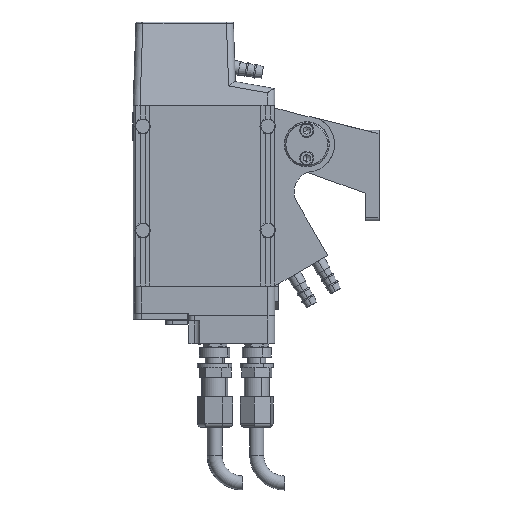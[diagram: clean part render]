
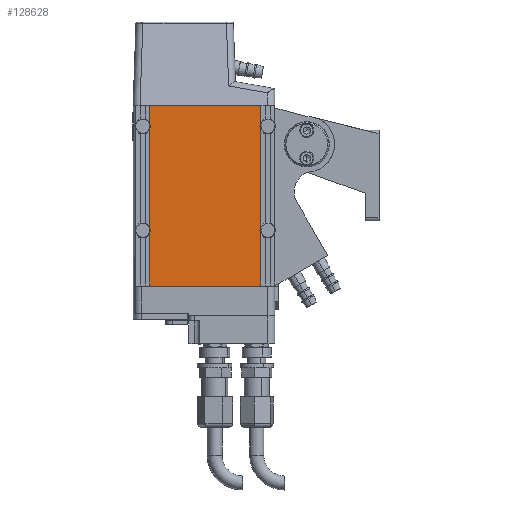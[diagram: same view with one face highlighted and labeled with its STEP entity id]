
A CAD part, left-side view. The second image highlights one B-rep face of the part: STEP entity #128628.
In plain terms, the highlighted planar face has unit normal (-1, 0, 0).
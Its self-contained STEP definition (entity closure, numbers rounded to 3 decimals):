
#10827 = DIRECTION ( 'NONE',  ( 0., 0., 1. ) ) ;
#13238 = CARTESIAN_POINT ( 'NONE',  ( -40.674, 50.645, 19.5 ) ) ;
#14720 = DIRECTION ( 'NONE',  ( 0., 1., 0. ) ) ;
#22426 = PLANE ( 'NONE',  #126108 ) ;
#23347 = CARTESIAN_POINT ( 'NONE',  ( -40.674, 50.645, 19.5 ) ) ;
#23866 = CARTESIAN_POINT ( 'NONE',  ( -40.674, -29.355, 19.5 ) ) ;
#26374 = CARTESIAN_POINT ( 'NONE',  ( -40.674, 60.645, 149.5 ) ) ;
#26651 = VERTEX_POINT ( 'NONE', #13238 ) ;
#38921 = VECTOR ( 'NONE', #14720, 1000. ) ;
#39089 = VECTOR ( 'NONE', #118759, 1000. ) ;
#43896 = EDGE_CURVE ( 'NONE', #26651, #61750, #49580, .T. ) ;
#49580 = LINE ( 'NONE', #134577, #142422 ) ;
#58542 = ORIENTED_EDGE ( 'NONE', *, *, #103814, .T. ) ;
#58843 = CARTESIAN_POINT ( 'NONE',  ( -40.674, -29.355, 149.5 ) ) ;
#61750 = VERTEX_POINT ( 'NONE', #23866 ) ;
#71268 = LINE ( 'NONE', #26374, #38921 ) ;
#77447 = VERTEX_POINT ( 'NONE', #91002 ) ;
#77730 = EDGE_LOOP ( 'NONE', ( #86457, #134987, #58542, #123099 ) ) ;
#83378 = DIRECTION ( 'NONE',  ( -1., 0., 0. ) ) ;
#86457 = ORIENTED_EDGE ( 'NONE', *, *, #43896, .T. ) ;
#91002 = CARTESIAN_POINT ( 'NONE',  ( -40.674, 50.645, 149.5 ) ) ;
#97135 = EDGE_CURVE ( 'NONE', #144014, #61750, #107356, .T. ) ;
#103814 = EDGE_CURVE ( 'NONE', #144014, #77447, #71268, .T. ) ;
#104496 = FACE_OUTER_BOUND ( 'NONE', #77730, .T. ) ;
#107356 = LINE ( 'NONE', #155348, #39089 ) ;
#107570 = DIRECTION ( 'NONE',  ( 0., 0., 1. ) ) ;
#111258 = DIRECTION ( 'NONE',  ( 0., -1., 0. ) ) ;
#112629 = EDGE_CURVE ( 'NONE', #26651, #77447, #125535, .T. ) ;
#118759 = DIRECTION ( 'NONE',  ( 0., 0., -1. ) ) ;
#121745 = VECTOR ( 'NONE', #107570, 1000. ) ;
#123099 = ORIENTED_EDGE ( 'NONE', *, *, #112629, .F. ) ;
#125535 = LINE ( 'NONE', #23347, #121745 ) ;
#126108 = AXIS2_PLACEMENT_3D ( 'NONE', #155938, #83378, #10827 ) ;
#128628 = ADVANCED_FACE ( 'NONE', ( #104496 ), #22426, .T. ) ;
#134577 = CARTESIAN_POINT ( 'NONE',  ( -40.674, 60.645, 19.5 ) ) ;
#134987 = ORIENTED_EDGE ( 'NONE', *, *, #97135, .F. ) ;
#142422 = VECTOR ( 'NONE', #111258, 1000. ) ;
#144014 = VERTEX_POINT ( 'NONE', #58843 ) ;
#155348 = CARTESIAN_POINT ( 'NONE',  ( -40.674, -29.355, 19.5 ) ) ;
#155938 = CARTESIAN_POINT ( 'NONE',  ( -40.674, -39.355, 19.5 ) ) ;
